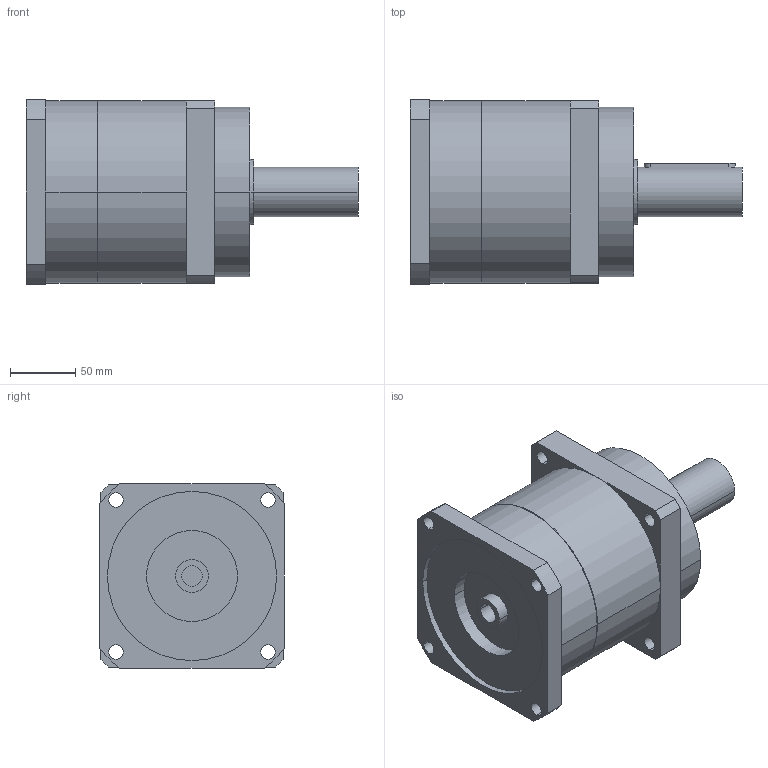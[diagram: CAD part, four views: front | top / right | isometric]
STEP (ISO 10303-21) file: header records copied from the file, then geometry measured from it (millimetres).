
FILE_DESCRIPTION(('CoCreate Modeling STEP Export'),'2;1');
FILE_NAME('GPR150_ig-3-4-5-7_38_B5_15.87_P05.stp','2014-08-19T16:41:31',(''),(''),'CoCreate Modeling STEP processor for AP214 (Solid Model)','CoCreate Modeling 16.00C 25-Feb-2009 (C) Parametric Technology GmbH','');
FILE_SCHEMA(('AUTOMOTIVE_DESIGN { 1 0 10303 214 1 1 1 1 }'));
Length unit declared in the file: millimetre
Products named in the file (2): GPR150_ig-3-4-5-7_38_B5_15.87_P05
Assembly tree (1 placements, depth 2):
  GPR150_ig-3-4-5-7_38_B5_15.87_P05
    GPR150_ig-3-4-5-7_38_B5_15.87_P05
Bounding box: 255 x 142 x 142 mm (x, y, z)
Volume: 2726096.1 mm3; surface area: 148047.3 mm2
Topology: 1 solids, 1 shells, 78 faces, 214 edges, 146 vertices
Faces by surface type: cylinder 46, plane 26, cone 6
Entity records: 2260 total; most frequent: ORIENTED_EDGE 424, CARTESIAN_POINT 421, DIRECTION 320, EDGE_CURVE 212, VERTEX_POINT 146, AXIS2_PLACEMENT_3D 117, EDGE_LOOP 104, VECTOR 86
